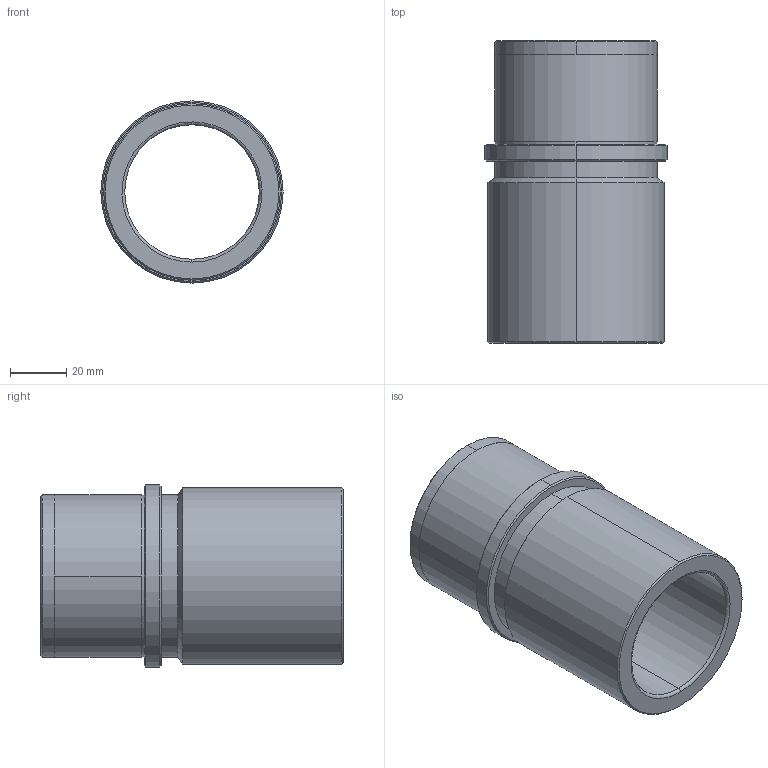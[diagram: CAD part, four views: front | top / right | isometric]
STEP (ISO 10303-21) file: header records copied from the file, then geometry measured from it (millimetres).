
FILE_DESCRIPTION (( 'STEP AP203' ), '1' );
FILE_NAME ('D27_40x108x37.STEP', '2013-12-27T09:31:45', ( 'Ayça' ), ( '' ), 'SwSTEP 2.0', 'SolidWorks 2013', '' );
FILE_SCHEMA (( 'CONFIG_CONTROL_DESIGN' ));
Length unit declared in the file: millimetre
Products named in the file (1): D27_40x108x37
Bounding box: 65 x 108 x 65 mm (x, y, z)
Volume: 121412.9 mm3; surface area: 40482.7 mm2
Topology: 1 solids, 1 shells, 34 faces, 70 edges, 42 vertices
Faces by surface type: cylinder 14, cone 10, plane 6, bspline 4
Entity records: 1401 total; most frequent: CARTESIAN_POINT 605, DIRECTION 162, ORIENTED_EDGE 140, EDGE_CURVE 70, AXIS2_PLACEMENT_3D 69, VERTEX_POINT 42, EDGE_LOOP 40, CIRCLE 38
